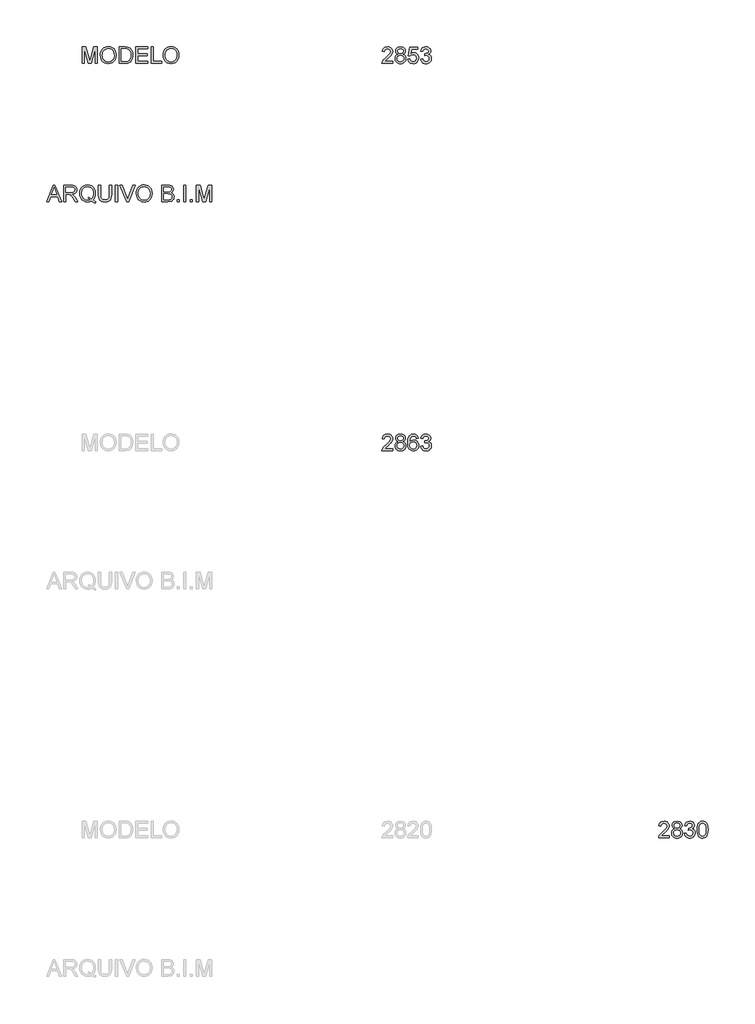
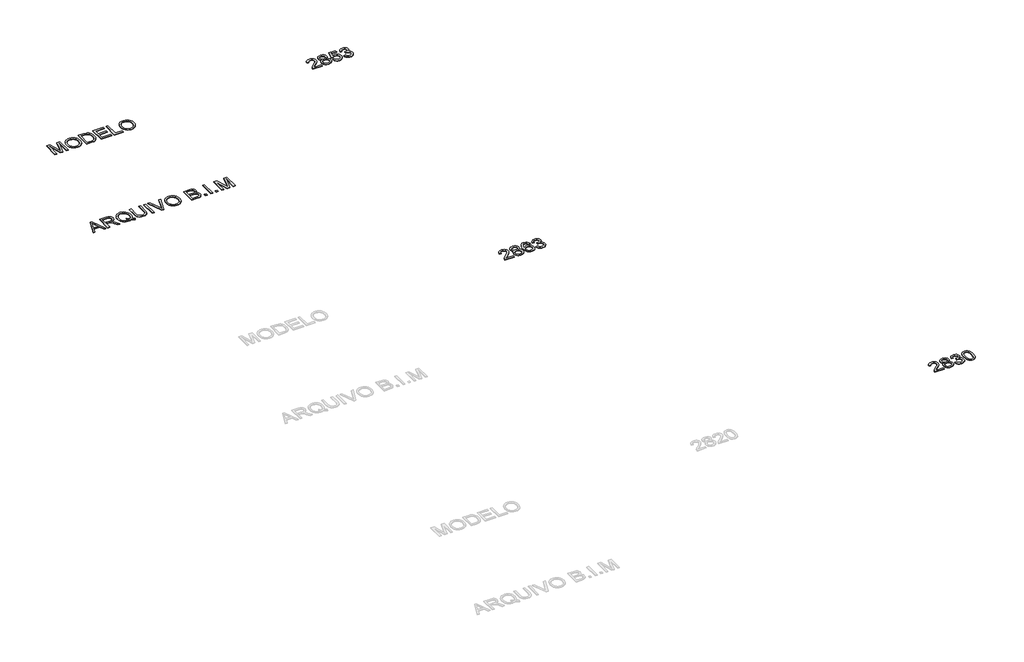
# One storey, part 2 of 4: 5 proxies.
"""IFC4 building model written with IfcOpenShell, lengths in millimetres."""

from ifc_helpers import new_model, si_unit, origin, origin_with_axes, place, context, project, spatial, polyline, outline, extrude, element, save

model = new_model("IFC4")

# Units and contexts
model_context = context("Model", 3, world=origin())
ifc_project = project(units=[si_unit("LENGTHUNIT", "METRE", prefix="MILLI")], contexts=[model_context])

# Site, building, storey
site = spatial("IfcSite", under=ifc_project)
building = spatial("IfcBuilding", under=site)
storey = spatial("IfcBuildingStorey", under=building, Name="Marelli - Linha UNIQUE - Planta Baixa", Elevation=0.0)

# Proxies
placement = place(None, origin())
element("IfcBuildingElementProxy", 1, Name="300mm Arial", ObjectType="300mm Arial", at=placement, inside=storey, context=model_context, shape_type="SweptSolid", body=[
    extrude(outline(polyline([(-1847.6579309, -1242.8952038), (-1847.6579309, -1280.5663201), (-2045.4312915, -1280.5663201), (-2041.3845896, -1254.5938512), (-2032.0955692, -1234.2959621), (-2018.5023295, -1214.6050783), (-1998.8390368, -1193.9944896), (-1971.3398577, -1170.9374855), (-1930.6888972, -1134.8298677), (-1906.298321, -1108.1768171), (-1894.1030328, -1086.5453558), (-1890.0379368, -1065.5025057), (-1893.8731066, -1046.6393564), (-1905.378616, -1030.9583863), (-1923.0645429, -1020.390976), (-1945.4409652, -1016.8685059), (-1968.9394277, -1020.3082026), (-1987.1955717, -1030.6272925), (-1998.9769926, -1047.0164354), (-2003.0512857, -1068.6662908), (-2040.722402, -1063.9574013), (-2031.5897315, -1027.5186897), (-2023.0433729, -1012.9827524), (-2011.8436654, -1000.9024273), (-1998.2481264, -991.4064733), (-1982.5142733, -984.623649), (-1944.6316249, -979.1973896), (-1924.4418011, -980.7057058), (-1906.4730649, -985.2306543), (-1890.7254163, -992.7722352), (-1877.1988551, -1003.3304485), (-1866.33484, -1016.1235449), (-1858.5748291, -1030.3697751), (-1853.9188226, -1046.0691393), (-1852.3668205, -1063.2216373), (-1854.0406835, -1081.238658), (-1859.0622728, -1098.942979), (-1867.9742141, -1116.9508027), (-1881.3191335, -1135.8783314), (-1902.5919099, -1158.4754829), (-1935.2874222, -1187.4921753), (-1978.6239212, -1223.7285518), (-1995.6200694, -1242.8952038), (-1847.6579309, -1242.8952038)])), origin_with_axes(), (0.0, 0.0, 1.0), 10.0),
    extrude(outline(polyline([(-1755.0988209, -1114.5779638), (-1775.2679513, -1104.64515), (-1789.4222111, -1091.180669), (-1797.7823294, -1074.4604323), (-1800.5690355, -1054.7603514), (-1799.0515223, -1039.3966796), (-1794.4989826, -1025.3113977), (-1786.9114165, -1012.5045058), (-1776.2888239, -1000.9760037), (-1763.1416411, -991.4478601), (-1747.9803043, -984.6420431), (-1711.6151691, -979.1973896), (-1675.0293047, -984.7708018), (-1659.7024211, -991.7375671), (-1646.3529032, -1001.4910385), (-1635.5371725, -1013.2448683), (-1627.8116506, -1026.2127086), (-1623.1763375, -1040.3945595), (-1621.6312331, -1055.790421), (-1624.381151, -1074.8559054), (-1632.6309048, -1091.2910335), (-1646.4724648, -1104.6727411), (-1665.9978017, -1114.5779638), (-1642.812039, -1126.5249316), (-1625.9354524, -1144.1188881), (-1615.6439536, -1166.5137045), (-1612.213454, -1192.8632524), (-1613.9149082, -1211.6528253), (-1619.0192709, -1228.8788997), (-1627.5265421, -1244.5414757), (-1639.4367217, -1258.6405532), (-1654.1244103, -1270.2932154), (-1670.9642086, -1278.6165455), (-1689.9561166, -1283.6105436), (-1711.1001343, -1285.2752096), (-1732.244152, -1283.6036458), (-1751.23606, -1278.5889543), (-1768.0758583, -1270.2311353), (-1782.763547, -1258.5301886), (-1794.6737266, -1244.3322428), (-1803.1809977, -1228.4834266), (-1808.2853604, -1210.9837399), (-1809.9868146, -1191.8331828), (-1806.4183593, -1164.4627624), (-1795.7129932, -1141.9483843), (-1778.4225394, -1125.0626007), (-1755.0988209, -1114.5779638)]), holes=[polyline([(-1762.8979192, -1055.8639974), (-1759.5593901, -1072.3083226), (-1749.5438028, -1085.4417098), (-1733.1454629, -1094.0501485), (-1710.6586759, -1096.9196281), (-1688.6961208, -1094.0685426), (-1672.5461012, -1085.5152862), (-1662.6132874, -1072.8233574), (-1659.3023494, -1057.5562546), (-1662.723652, -1041.7097376), (-1672.9875596, -1028.6039416), (-1689.3583084, -1019.8023648), (-1711.1001343, -1016.8685059), (-1732.979916, -1019.7379855), (-1749.3230736, -1028.3464242), (-1759.5042078, -1040.9647766), (-1762.8979192, -1055.8639974)]), polyline([(-1772.3156983, -1190.5088076), (-1766.0249162, -1218.8725095), (-1757.31531, -1231.0402065), (-1743.7680555, -1240.0993006), (-1727.5444595, -1245.7278951), (-1710.8058287, -1247.6040933), (-1685.1644537, -1243.6585589), (-1665.9242253, -1231.8219557), (-1653.8944841, -1213.8969055), (-1649.8845703, -1191.68603), (-1654.0232428, -1169.0980755), (-1666.4392601, -1150.7775522), (-1686.1209468, -1138.6374463), (-1712.0566275, -1134.5907444), (-1737.3393176, -1138.582264), (-1756.3864079, -1150.556823), (-1768.3333757, -1168.5278584), (-1772.3156983, -1190.5088076)])]), origin_with_axes(), (0.0, 0.0, 1.0), 10.0),
    extrude(outline(polyline([(-1579.2512273, -1200.5151979), (-1541.5801109, -1195.8063084), (-1534.6639294, -1218.421854), (-1522.5974, -1234.6178589), (-1505.4357049, -1244.3575347), (-1483.2340265, -1247.6040933), (-1456.2314881, -1243.0883418), (-1435.9979783, -1229.5410873), (-1423.3612318, -1208.5258284), (-1419.1489829, -1181.6060634), (-1423.0945173, -1156.2589939), (-1434.9311205, -1136.8716128), (-1454.750763, -1124.56596), (-1482.6454153, -1120.4640758), (-1500.9199534, -1122.1011506), (-1515.7180067, -1127.0123753), (-1536.8712214, -1144.0085235), (-1574.5423377, -1139.2996339), (-1541.5801109, -983.9062792), (-1395.6045353, -983.9062792), (-1395.6045353, -1021.5773955), (-1511.1194817, -1021.5773955), (-1527.2327131, -1104.5715736), (-1500.3221452, -1088.237613), (-1472.1239903, -1082.7929595), (-1453.778175, -1084.4806181), (-1436.9268804, -1089.5435941), (-1421.5701063, -1097.9818873), (-1407.7078529, -1109.7954979), (-1396.2322339, -1124.2624574), (-1388.0353632, -1140.6607973), (-1383.1172408, -1158.9905177), (-1381.4778666, -1179.2516186), (-1387.3823727, -1216.9227349), (-1394.7630052, -1233.716548), (-1405.0958907, -1249.1491977), (-1420.7492696, -1264.9543279), (-1439.0146107, -1276.2437066), (-1459.8919139, -1283.0173339), (-1483.3811793, -1285.2752096), (-1520.380911, -1279.4718711), (-1536.0595818, -1272.217698), (-1549.8574558, -1262.0618557), (-1561.3376733, -1249.5101819), (-1570.0633744, -1235.0685143), (-1579.2512273, -1200.5151979)])), origin_with_axes(), (0.0, 0.0, 1.0), 10.0),
    extrude(outline(polyline([(-1348.5156399, -1200.5151979), (-1310.8445236, -1195.8063084), (-1302.4108288, -1219.4795148), (-1290.0591908, -1235.4639875), (-1273.1826043, -1244.5690668), (-1251.174064, -1247.6040933), (-1225.3487479, -1243.4286327), (-1205.4095438, -1230.9022507), (-1192.6624326, -1212.2138454), (-1188.4133956, -1189.5523145), (-1192.6256444, -1168.0404148), (-1205.262391, -1150.5936112), (-1224.3922547, -1139.0329195), (-1248.0838552, -1135.1793556), (-1274.4977824, -1139.2996339), (-1270.3039277, -1101.6285176), (-1264.270663, -1102.069976), (-1241.7011026, -1099.3660433), (-1221.5227751, -1091.2542454), (-1207.2857419, -1077.5322469), (-1202.5400642, -1057.997713), (-1205.9797608, -1041.7281317), (-1216.2988508, -1028.5303652), (-1232.0442002, -1019.7839707), (-1251.7626751, -1016.8685059), (-1271.5179383, -1019.8115619), (-1287.6679579, -1028.6407298), (-1299.4585758, -1043.3560096), (-1306.135634, -1063.9574013), (-1343.8067503, -1059.2485118), (-1332.7151082, -1025.4217623), (-1312.9782391, -1000.1666633), (-1285.9757007, -984.4397081), (-1253.0870503, -979.1973896), (-1229.4046469, -981.7817606), (-1207.6536239, -989.5348737), (-1189.3147065, -1001.76695), (-1175.8686195, -1017.7882109), (-1167.6188658, -1036.24669), (-1164.8689479, -1055.790421), (-1167.48091, -1074.0005798), (-1175.3167965, -1090.5184814), (-1188.2662428, -1104.5899677), (-1206.2188841, -1115.4608806), (-1182.6376482, -1124.9890243), (-1165.1632535, -1141.2126203), (-1154.3475228, -1163.2487518), (-1150.7422793, -1190.2145021), (-1152.544901, -1209.3259717), (-1157.9527664, -1226.9291252), (-1166.9658753, -1243.0239625), (-1179.5842277, -1257.6104836), (-1194.9570966, -1269.7138012), (-1212.2337548, -1278.3590281), (-1231.4142023, -1283.5461642), (-1252.4984391, -1285.2752096), (-1271.5547265, -1283.7990831), (-1288.9187567, -1279.3707036), (-1304.5905297, -1271.9900711), (-1318.5700455, -1261.6571855), (-1330.2916855, -1248.9790523), (-1339.1898313, -1234.5626766), (-1345.2644827, -1218.4080585), (-1348.5156399, -1200.5151979)])), origin_with_axes(), (0.0, 0.0, 1.0), 10.0),
])
element("IfcBuildingElementProxy", 2, Name="300mm Arial", ObjectType="300mm Arial", at=placement, inside=storey, context=model_context, shape_type="SweptSolid", body=[
    extrude(outline(polyline([(-8109.419598, -3780.5663201), (-7989.1221856, -3479.1973896), (-7957.0428756, -3479.1973896), (-7836.7454632, -3780.5663201), (-7876.550295, -3780.5663201), (-7911.0576262, -3686.3885293), (-8035.1810114, -3686.3885293), (-8069.6147661, -3780.5663201), (-8109.419598, -3780.5663201)]), holes=[polyline([(-8021.3486483, -3648.717413), (-7924.8164128, -3648.717413), (-7951.9661041, -3574.6259792), (-7973.0825306, -3516.8685059), (-7991.8445123, -3568.1512561), (-8021.3486483, -3648.717413)])]), origin_with_axes(), (0.0, 0.0, 1.0), 10.0),
    extrude(outline(polyline([(-7796.4991729, -3780.5663201), (-7796.4991729, -3479.1973896), (-7666.6368286, -3479.1973896), (-7631.7340243, -3481.2299376), (-7606.3409696, -3487.3275817), (-7587.7813229, -3498.5847708), (-7573.3787428, -3516.0959537), (-7564.1357077, -3537.8101885), (-7561.054696, -3561.6765329), (-7566.1590587, -3591.3646099), (-7581.4721467, -3615.9759154), (-7593.0719259, -3626.0052983), (-7607.4538126, -3634.0205273), (-7644.5639089, -3644.0085235), (-7623.1531768, -3660.1217548), (-7592.6189712, -3698.8965171), (-7542.3662906, -3780.5663201), (-7586.144248, -3780.5663201), (-7625.3604687, -3718.0999573), (-7653.6873824, -3676.750021), (-7673.5897983, -3657.2154871), (-7691.5056515, -3650.0417882), (-7713.357842, -3648.717413), (-7758.8280566, -3648.717413), (-7758.8280566, -3780.5663201), (-7796.4991729, -3780.5663201)]), holes=[polyline([(-7758.8280566, -3611.0462967), (-7674.5095033, -3611.0462967), (-7650.293671, -3609.7127245), (-7631.5040981, -3605.7120078), (-7617.3590353, -3598.7774322), (-7607.0767336, -3588.6422832), (-7600.8135426, -3576.3826157), (-7598.7258123, -3563.0744845), (-7602.7081349, -3544.6987789), (-7614.6551027, -3529.8915286), (-7635.2105092, -3520.1242616), (-7665.0181478, -3516.8685059), (-7758.8280566, -3516.8685059), (-7758.8280566, -3611.0462967)])]), origin_with_axes(), (0.0, 0.0, 1.0), 10.0),
    extrude(outline(polyline([(-7268.7356626, -3744.4403081), (-7244.4002686, -3763.036743), (-7222.0146492, -3775.8574305), (-7232.1681923, -3803.4485802), (-7263.2358268, -3789.0460001), (-7294.1930967, -3768.205485), (-7329.0499157, -3781.0077785), (-7367.4016137, -3785.2752096), (-7405.9372527, -3780.3547879), (-7440.7572836, -3765.5935229), (-7469.9211287, -3741.9203165), (-7491.4882107, -3710.2640708), (-7504.814736, -3672.3630282), (-7509.2569111, -3629.9554312), (-7504.823933, -3587.511046), (-7491.5249989, -3549.0581805), (-7470.0406904, -3516.9512794), (-7441.0515892, -3493.5447874), (-7406.360317, -3479.2525719), (-7367.7694957, -3474.4885001), (-7328.8751718, -3479.3629365), (-7294.0091557, -3493.9862458), (-7265.0660397, -3517.3835407), (-7243.9404161, -3548.5799339), (-7231.0277581, -3585.9199564), (-7226.7235388, -3627.7481393), (-7229.3355009, -3662.5313819), (-7237.1713874, -3693.5990164), (-7250.2863806, -3720.9142546), (-7268.7356626, -3744.4403081)]), holes=[polyline([(-7357.0273415, -3694.3347804), (-7325.3527017, -3706.3093393), (-7299.784903, -3722.9559996), (-7284.3016695, -3705.4816049), (-7273.2422171, -3684.1076609), (-7266.6065456, -3658.8341679), (-7264.3946551, -3629.6611256), (-7267.521652, -3596.5057608), (-7276.9026429, -3567.8201623), (-7292.3077015, -3544.3308969), (-7313.5069014, -3526.7645316), (-7339.065503, -3515.8108452), (-7367.5487665, -3512.1596164), (-7389.033075, -3514.0059242), (-7408.6043972, -3519.5448474), (-7426.2627329, -3528.7763863), (-7442.0080823, -3541.7005406), (-7454.9483315, -3558.2897193), (-7464.1913666, -3578.5163313), (-7469.7371877, -3602.3803764), (-7471.5857948, -3629.8818548), (-7469.7578811, -3656.6659634), (-7464.2741401, -3680.1437324), (-7455.1345718, -3700.3151621), (-7442.3391761, -3717.1802523), (-7426.7018921, -3730.4906827), (-7409.0366585, -3739.9981331), (-7389.3434755, -3745.7026032), (-7367.6223429, -3747.6040933), (-7346.7082515, -3745.6727128), (-7327.081747, -3739.8785714), (-7346.3771577, -3729.853787), (-7366.7394261, -3723.1767288), (-7357.0273415, -3694.3347804)])]), origin_with_axes(), (0.0, 0.0, 1.0), 10.0),
    extrude(outline(polyline([(-6972.4435037, -3479.1973896), (-6934.7723874, -3479.1973896), (-6934.7723874, -3653.0584205), (-6937.3291673, -3693.7737604), (-6944.9995069, -3725.1265034), (-6959.3285106, -3749.3147446), (-6981.8612828, -3768.5365788), (-7012.6530058, -3781.0905519), (-7051.7588619, -3785.2752096), (-7090.0093923, -3781.6331779), (-7120.5895832, -3770.7070826), (-7143.5086315, -3752.8740029), (-7158.7757343, -3728.5110178), (-7167.3565818, -3695.8338995), (-7170.2168643, -3653.0584205), (-7170.2168643, -3479.1973896), (-7132.545748, -3479.1973896), (-7132.545748, -3651.7340454), (-7130.6879439, -3685.588386), (-7125.1145317, -3709.1604248), (-7115.0161709, -3725.4851883), (-7099.5835212, -3737.597703), (-7079.4603761, -3745.1024957), (-7055.290529, -3747.6040933), (-7016.9756192, -3742.6560805), (-7002.6328199, -3736.4710644), (-6991.499791, -3727.812042), (-6983.1626653, -3715.6351479), (-6977.2075755, -3698.8965171), (-6972.4435037, -3651.7340454), (-6972.4435037, -3479.1973896)])), origin_with_axes(), (0.0, 0.0, 1.0), 10.0),
    extrude(outline(polyline([(-6864.1390443, -3780.5663201), (-6864.1390443, -3479.1973896), (-6826.467928, -3479.1973896), (-6826.467928, -3780.5663201), (-6864.1390443, -3780.5663201)])), origin_with_axes(), (0.0, 0.0, 1.0), 10.0),
    extrude(outline(polyline([(-6662.0982526, -3780.5663201), (-6782.027783, -3479.1973896), (-6741.7079163, -3479.1973896), (-6661.436065, -3696.3213432), (-6645.1756808, -3745.2496485), (-6629.1360258, -3696.3213432), (-6548.6434453, -3479.1973896), (-6508.3235786, -3479.1973896), (-6623.1763375, -3780.5663201), (-6662.0982526, -3780.5663201)])), origin_with_axes(), (0.0, 0.0, 1.0), 10.0),
    extrude(outline(polyline([(-6487.4278813, -3633.8549804), (-6484.9170866, -3598.5061192), (-6477.3847028, -3567.213157), (-6464.8307297, -3539.9760937), (-6447.2551674, -3516.7949295), (-6425.711078, -3498.2858666), (-6401.2515239, -3485.0651074), (-6373.8765049, -3477.1326519), (-6343.5860211, -3474.4885001), (-6304.0571008, -3479.454907), (-6268.6116705, -3494.3541278), (-6239.1811109, -3518.1376988), (-6217.6968024, -3549.7571563), (-6204.5634152, -3587.68579), (-6200.1856194, -3630.3968896), (-6204.7933414, -3673.6782064), (-6218.6165074, -3712.140269), (-6240.8917622, -3743.8149087), (-6270.8557507, -3766.733957), (-6305.9976783, -3780.6398965), (-6343.8067503, -3785.2752096), (-6383.942676, -3780.1524528), (-6419.5904413, -3764.7841825), (-6448.9474246, -3740.5591531), (-6470.2110039, -3708.8661192), (-6483.1236619, -3672.3998164), (-6487.4278813, -3633.8549804)]), holes=[polyline([(-6449.7567649, -3634.2228624), (-6447.873669, -3659.1974513), (-6442.2243811, -3681.3669401), (-6432.8089013, -3700.7313286), (-6419.6272295, -3717.2906169), (-6403.6036694, -3730.5527628), (-6385.6625243, -3740.0257242), (-6365.8037944, -3745.709501), (-6344.0274795, -3747.6040933), (-6321.8786842, -3745.6911069), (-6301.7854294, -3739.9521478), (-6283.7477154, -3730.3872159), (-6267.7655419, -3716.9963113), (-6254.6804392, -3700.0875351), (-6245.3339373, -3679.9689885), (-6239.7260361, -3656.6406715), (-6237.8567357, -3630.102584), (-6241.0573091, -3596.7540812), (-6250.6590292, -3567.9305269), (-6266.4135756, -3544.358488), (-6288.0726281, -3526.7645316), (-6314.2014468, -3515.8108452), (-6343.3652919, -3512.1596164), (-6364.3851494, -3513.9185522), (-6383.8874937, -3519.1953595), (-6401.8723248, -3527.9900385), (-6418.3396426, -3540.302589), (-6432.0846336, -3556.7262208), (-6441.9024844, -3577.8541437), (-6447.7931948, -3603.6863575), (-6449.7567649, -3634.2228624)])]), origin_with_axes(), (0.0, 0.0, 1.0), 10.0),
    extrude(outline(polyline([(-6030.665596, -3780.5663201), (-6030.665596, -3479.1973896), (-5915.6656844, -3479.1973896), (-5884.0370298, -3481.4138786), (-5859.3429509, -3488.0633457), (-5840.4154222, -3499.3113377), (-5826.0864185, -3515.3234015), (-5817.0641126, -3534.1589597), (-5814.0566773, -3553.8774346), (-5816.585866, -3572.0232141), (-5824.1734321, -3589.0837416), (-5836.874558, -3604.0105535), (-5854.7444259, -3615.7551862), (-5833.3980732, -3626.9020107), (-5817.6251326, -3643.8613707), (-5807.8854568, -3665.5112261), (-5804.6388982, -3690.7295368), (-5806.8553872, -3711.7447958), (-5813.5048543, -3731.2333445), (-5823.4284711, -3747.8064284), (-5835.4674094, -3760.0752929), (-5850.2102804, -3768.9596431), (-5868.2456952, -3775.3791839), (-5916.5486011, -3780.5663201), (-6030.665596, -3780.5663201)]), holes=[polyline([(-5992.9944797, -3601.6285176), (-5924.2005466, -3601.6285176), (-5884.0278328, -3598.3911561), (-5869.9655435, -3592.8085468), (-5859.8579857, -3584.4484284), (-5853.7603416, -3573.4395597), (-5851.7277936, -3559.9106994), (-5853.6223859, -3546.7773121), (-5859.3061627, -3535.3361821), (-5868.5216067, -3526.4058467), (-5881.0112004, -3520.8048433), (-5929.424471, -3516.8685059), (-5992.9944797, -3516.8685059), (-5992.9944797, -3601.6285176)]), polyline([(-5992.9944797, -3742.8952038), (-5915.7392607, -3742.8952038), (-5887.7802291, -3741.4236758), (-5864.1254168, -3733.2199073), (-5848.4536438, -3716.4812765), (-5843.8459218, -3704.6538704), (-5842.3100145, -3691.0974188), (-5844.1126363, -3675.3520694), (-5849.5205016, -3661.814012), (-5858.9658718, -3651.2282076), (-5872.8810083, -3644.3396173), (-5892.5902862, -3640.5596298), (-5919.4180807, -3639.2996339), (-5992.9944797, -3639.2996339), (-5992.9944797, -3742.8952038)])]), origin_with_axes(), (0.0, 0.0, 1.0), 10.0),
    extrude(outline(polyline([(-5748.1322237, -3780.5663201), (-5748.1322237, -3742.8952038), (-5710.4611074, -3742.8952038), (-5710.4611074, -3780.5663201), (-5748.1322237, -3780.5663201)])), origin_with_axes(), (0.0, 0.0, 1.0), 10.0),
    extrude(outline(polyline([(-5630.4099853, -3780.5663201), (-5630.4099853, -3479.1973896), (-5592.738869, -3479.1973896), (-5592.738869, -3780.5663201), (-5630.4099853, -3780.5663201)])), origin_with_axes(), (0.0, 0.0, 1.0), 10.0),
    extrude(outline(polyline([(-5512.6877468, -3780.5663201), (-5512.6877468, -3742.8952038), (-5475.0166305, -3742.8952038), (-5475.0166305, -3780.5663201), (-5512.6877468, -3780.5663201)])), origin_with_axes(), (0.0, 0.0, 1.0), 10.0),
    extrude(outline(polyline([(-5399.6743979, -3780.5663201), (-5399.6743979, -3479.1973896), (-5334.8535904, -3479.1973896), (-5273.196568, -3691.6124536), (-5260.7621565, -3735.9790223), (-5247.2976755, -3687.9336337), (-5186.6707227, -3479.1973896), (-5121.8499152, -3479.1973896), (-5121.8499152, -3780.5663201), (-5159.5210315, -3780.5663201), (-5159.5210315, -3516.8685059), (-5235.2311461, -3780.5663201), (-5286.293167, -3780.5663201), (-5362.0032816, -3516.8685059), (-5362.0032816, -3780.5663201), (-5399.6743979, -3780.5663201)])), origin_with_axes(), (0.0, 0.0, 1.0), 10.0),
])
element("IfcBuildingElementProxy", 3, Name="300mm Arial", ObjectType="300mm Arial", at=placement, inside=storey, context=model_context, shape_type="SweptSolid", body=[
    extrude(outline(polyline([(-7466.8769052, -1280.5663201), (-7466.8769052, -979.1973896), (-7402.0560977, -979.1973896), (-7340.3990753, -1191.6124536), (-7327.9646638, -1235.9790223), (-7314.5001828, -1187.9336337), (-7253.87323, -979.1973896), (-7189.0524225, -979.1973896), (-7189.0524225, -1280.5663201), (-7226.7235388, -1280.5663201), (-7226.7235388, -1016.8685059), (-7302.4336534, -1280.5663201), (-7353.4956743, -1280.5663201), (-7429.2057889, -1016.8685059), (-7429.2057889, -1280.5663201), (-7466.8769052, -1280.5663201)])), origin_with_axes(), (0.0, 0.0, 1.0), 10.0),
    extrude(outline(polyline([(-7137.2546375, -1133.8549804), (-7134.7438429, -1098.5061192), (-7127.2114591, -1067.213157), (-7114.657486, -1039.9760937), (-7097.0819237, -1016.7949295), (-7075.5378343, -998.2858666), (-7051.0782802, -985.0651074), (-7023.7032612, -977.1326519), (-6993.4127774, -974.4885001), (-6953.883857, -979.454907), (-6918.4384268, -994.3541278), (-6889.0078672, -1018.1376988), (-6867.5235587, -1049.7571563), (-6854.3901714, -1087.68579), (-6850.0123757, -1130.3968896), (-6854.6200977, -1173.6782064), (-6868.4432637, -1212.140269), (-6890.7185185, -1243.8149087), (-6920.682507, -1266.733957), (-6955.8244346, -1280.6398965), (-6993.6335066, -1285.2752096), (-7033.7694323, -1280.1524528), (-7069.4171976, -1264.7841825), (-7098.7741808, -1240.5591531), (-7120.0377602, -1208.8661192), (-7132.9504182, -1172.3998164), (-7137.2546375, -1133.8549804)]), holes=[polyline([(-7099.5835212, -1134.2228624), (-7097.7004253, -1159.1974513), (-7092.0511374, -1181.3669401), (-7082.6356576, -1200.7313286), (-7069.4539858, -1217.2906169), (-7053.4304257, -1230.5527628), (-7035.4892806, -1240.0257242), (-7015.6305507, -1245.709501), (-6993.8542358, -1247.6040933), (-6971.7054404, -1245.6911069), (-6951.6121857, -1239.9521478), (-6933.5744716, -1230.3872159), (-6917.5922982, -1216.9963113), (-6904.5071955, -1200.0875351), (-6895.1606936, -1179.9689885), (-6889.5527924, -1156.6406715), (-6887.683492, -1130.102584), (-6890.8840654, -1096.7540812), (-6900.4857854, -1067.9305269), (-6916.2403319, -1044.358488), (-6937.8993843, -1026.7645316), (-6964.0282031, -1015.8108452), (-6993.1920482, -1012.1596164), (-7014.2119057, -1013.9185522), (-7033.71425, -1019.1953595), (-7051.699081, -1027.9900385), (-7068.1663988, -1040.302589), (-7081.9113899, -1056.7262208), (-7091.7292406, -1077.8541437), (-7097.6199511, -1103.6863575), (-7099.5835212, -1134.2228624)])]), origin_with_axes(), (0.0, 0.0, 1.0), 10.0),
    extrude(outline(polyline([(-6798.2145908, -1280.5663201), (-6798.2145908, -979.1973896), (-6694.2511389, -979.1973896), (-6640.4667912, -983.5383972), (-6616.444097, -991.9077126), (-6596.173799, -1005.0962821), (-6575.333284, -1028.0521186), (-6560.4892455, -1056.5997614), (-6551.6048953, -1090.1873876), (-6548.6434453, -1128.2631741), (-6550.6484021, -1160.6091985), (-6556.6632727, -1189.0740679), (-6565.8235344, -1213.3082943), (-6577.2646645, -1232.9623899), (-6590.4348399, -1248.477813), (-6604.7822377, -1260.2960221), (-6621.254154, -1269.0608107), (-6640.797885, -1275.4159721), (-6689.2479438, -1280.5663201), (-6798.2145908, -1280.5663201)]), holes=[polyline([(-6760.5434745, -1242.8952038), (-6693.8832569, -1242.8952038), (-6666.3105014, -1241.5340404), (-6645.39641, -1237.4505502), (-6629.6142724, -1230.8838566), (-6617.4373783, -1222.0730828), (-6604.3499764, -1205.7667134), (-6594.5183301, -1184.6594839), (-6588.3655037, -1158.6594239), (-6586.3145616, -1127.6745629), (-6590.3336724, -1086.6189322), (-6602.3910047, -1056.3054558), (-6620.2056904, -1035.4833349), (-6641.4968608, -1022.9017706), (-6663.1651104, -1018.3768221), (-6694.9133265, -1016.8685059), (-6760.5434745, -1016.8685059), (-6760.5434745, -1242.8952038)])]), origin_with_axes(), (0.0, 0.0, 1.0), 10.0),
    extrude(outline(polyline([(-6496.8456603, -1280.5663201), (-6496.8456603, -979.1973896), (-6280.2367416, -979.1973896), (-6280.2367416, -1016.8685059), (-6459.174544, -1016.8685059), (-6459.174544, -1106.3374072), (-6289.6545206, -1106.3374072), (-6289.6545206, -1144.0085235), (-6459.174544, -1144.0085235), (-6459.174544, -1242.8952038), (-6275.527852, -1242.8952038), (-6275.527852, -1280.5663201), (-6496.8456603, -1280.5663201)])), origin_with_axes(), (0.0, 0.0, 1.0), 10.0),
    extrude(outline(polyline([(-6219.0211776, -1280.5663201), (-6219.0211776, -979.1973896), (-6181.3500613, -979.1973896), (-6181.3500613, -1242.8952038), (-6030.665596, -1242.8952038), (-6030.665596, -1280.5663201), (-6219.0211776, -1280.5663201)])), origin_with_axes(), (0.0, 0.0, 1.0), 10.0),
    extrude(outline(polyline([(-6002.4122588, -1133.8549804), (-5999.9014642, -1098.5061192), (-5992.3690803, -1067.213157), (-5979.8151073, -1039.9760937), (-5962.2395449, -1016.7949295), (-5940.6954556, -998.2858666), (-5916.2359014, -985.0651074), (-5888.8608825, -977.1326519), (-5858.5703987, -974.4885001), (-5819.0414783, -979.454907), (-5783.5960481, -994.3541278), (-5754.1654885, -1018.1376988), (-5732.6811799, -1049.7571563), (-5719.5477927, -1087.68579), (-5715.169997, -1130.3968896), (-5719.777719, -1173.6782064), (-5733.6008849, -1212.140269), (-5755.8761397, -1243.8149087), (-5785.8401283, -1266.733957), (-5820.9820558, -1280.6398965), (-5858.7911279, -1285.2752096), (-5898.9270536, -1280.1524528), (-5934.5748189, -1264.7841825), (-5963.9318021, -1240.5591531), (-5985.1953814, -1208.8661192), (-5998.1080395, -1172.3998164), (-6002.4122588, -1133.8549804)]), holes=[polyline([(-5964.7411425, -1134.2228624), (-5962.8580465, -1159.1974513), (-5957.2087587, -1181.3669401), (-5947.7932788, -1200.7313286), (-5934.6116071, -1217.2906169), (-5918.5880469, -1230.5527628), (-5900.6469019, -1240.0257242), (-5880.7881719, -1245.709501), (-5859.0118571, -1247.6040933), (-5836.8630617, -1245.6911069), (-5816.769807, -1239.9521478), (-5798.7320929, -1230.3872159), (-5782.7499195, -1216.9963113), (-5769.6648168, -1200.0875351), (-5760.3183148, -1179.9689885), (-5754.7104137, -1156.6406715), (-5752.8411133, -1130.102584), (-5756.0416866, -1096.7540812), (-5765.6434067, -1067.9305269), (-5781.3979532, -1044.358488), (-5803.0570056, -1026.7645316), (-5829.1858243, -1015.8108452), (-5858.3496695, -1012.1596164), (-5879.369527, -1013.9185522), (-5898.8718713, -1019.1953595), (-5916.8567023, -1027.9900385), (-5933.3240201, -1040.302589), (-5947.0690112, -1056.7262208), (-5956.8868619, -1077.8541437), (-5962.7775724, -1103.6863575), (-5964.7411425, -1134.2228624)])]), origin_with_axes(), (0.0, 0.0, 1.0), 10.0),
])
element("IfcBuildingElementProxy", 4, Name="300mm Arial", ObjectType="300mm Arial", at=placement, inside=storey, context=model_context, shape_type="SweptSolid", body=[
    extrude(outline(polyline([(-1847.6579309, -8242.8952038), (-1847.6579309, -8280.5663201), (-2045.4312915, -8280.5663201), (-2041.3845896, -8254.5938512), (-2032.0955692, -8234.2959621), (-2018.5023295, -8214.6050783), (-1998.8390368, -8193.9944896), (-1971.3398577, -8170.9374855), (-1930.6888972, -8134.8298677), (-1906.298321, -8108.1768171), (-1894.1030328, -8086.5453558), (-1890.0379368, -8065.5025057), (-1893.8731066, -8046.6393564), (-1905.378616, -8030.9583863), (-1923.0645429, -8020.390976), (-1945.4409652, -8016.8685059), (-1968.9394277, -8020.3082026), (-1987.1955717, -8030.6272925), (-1998.9769926, -8047.0164354), (-2003.0512857, -8068.6662908), (-2040.722402, -8063.9574013), (-2031.5897315, -8027.5186897), (-2023.0433729, -8012.9827524), (-2011.8436654, -8000.9024273), (-1998.2481264, -7991.4064733), (-1982.5142733, -7984.623649), (-1944.6316249, -7979.1973896), (-1924.4418011, -7980.7057058), (-1906.4730649, -7985.2306543), (-1890.7254163, -7992.7722352), (-1877.1988551, -8003.3304485), (-1866.33484, -8016.1235449), (-1858.5748291, -8030.3697751), (-1853.9188226, -8046.0691393), (-1852.3668205, -8063.2216373), (-1854.0406835, -8081.238658), (-1859.0622728, -8098.942979), (-1867.9742141, -8116.9508027), (-1881.3191335, -8135.8783314), (-1902.5919099, -8158.4754829), (-1935.2874222, -8187.4921753), (-1978.6239212, -8223.7285518), (-1995.6200694, -8242.8952038), (-1847.6579309, -8242.8952038)])), origin_with_axes(), (0.0, 0.0, 1.0), 10.0),
    extrude(outline(polyline([(-1755.0988209, -8114.5779638), (-1775.2679513, -8104.64515), (-1789.4222111, -8091.180669), (-1797.7823294, -8074.4604323), (-1800.5690355, -8054.7603514), (-1799.0515223, -8039.3966796), (-1794.4989826, -8025.3113977), (-1786.9114165, -8012.5045058), (-1776.2888239, -8000.9760037), (-1763.1416411, -7991.4478601), (-1747.9803043, -7984.6420431), (-1711.6151691, -7979.1973896), (-1675.0293047, -7984.7708018), (-1659.7024211, -7991.7375671), (-1646.3529032, -8001.4910385), (-1635.5371725, -8013.2448683), (-1627.8116506, -8026.2127086), (-1623.1763375, -8040.3945595), (-1621.6312331, -8055.790421), (-1624.381151, -8074.8559054), (-1632.6309048, -8091.2910335), (-1646.4724648, -8104.6727411), (-1665.9978017, -8114.5779638), (-1642.812039, -8126.5249316), (-1625.9354524, -8144.1188881), (-1615.6439536, -8166.5137045), (-1612.213454, -8192.8632524), (-1613.9149082, -8211.6528253), (-1619.0192709, -8228.8788997), (-1627.5265421, -8244.5414757), (-1639.4367217, -8258.6405532), (-1654.1244103, -8270.2932154), (-1670.9642086, -8278.6165455), (-1689.9561166, -8283.6105436), (-1711.1001343, -8285.2752096), (-1732.244152, -8283.6036458), (-1751.23606, -8278.5889543), (-1768.0758583, -8270.2311353), (-1782.763547, -8258.5301886), (-1794.6737266, -8244.3322428), (-1803.1809977, -8228.4834266), (-1808.2853604, -8210.9837399), (-1809.9868146, -8191.8331828), (-1806.4183593, -8164.4627624), (-1795.7129932, -8141.9483843), (-1778.4225394, -8125.0626007), (-1755.0988209, -8114.5779638)]), holes=[polyline([(-1762.8979192, -8055.8639974), (-1759.5593901, -8072.3083226), (-1749.5438028, -8085.4417098), (-1733.1454629, -8094.0501485), (-1710.6586759, -8096.9196281), (-1688.6961208, -8094.0685426), (-1672.5461012, -8085.5152862), (-1662.6132874, -8072.8233574), (-1659.3023494, -8057.5562546), (-1662.723652, -8041.7097376), (-1672.9875596, -8028.6039416), (-1689.3583084, -8019.8023648), (-1711.1001343, -8016.8685059), (-1732.979916, -8019.7379855), (-1749.3230736, -8028.3464242), (-1759.5042078, -8040.9647766), (-1762.8979192, -8055.8639974)]), polyline([(-1772.3156983, -8190.5088076), (-1766.0249162, -8218.8725095), (-1757.31531, -8231.0402065), (-1743.7680555, -8240.0993006), (-1727.5444595, -8245.7278951), (-1710.8058287, -8247.6040933), (-1685.1644537, -8243.6585589), (-1665.9242253, -8231.8219557), (-1653.8944841, -8213.8969055), (-1649.8845703, -8191.68603), (-1654.0232428, -8169.0980755), (-1666.4392601, -8150.7775522), (-1686.1209468, -8138.6374463), (-1712.0566275, -8134.5907444), (-1737.3393176, -8138.582264), (-1756.3864079, -8150.556823), (-1768.3333757, -8168.5278584), (-1772.3156983, -8190.5088076)])]), origin_with_axes(), (0.0, 0.0, 1.0), 10.0),
    extrude(outline(polyline([(-1386.1867562, -8059.2485118), (-1423.8578725, -8063.9574013), (-1429.9279254, -8045.2873901), (-1438.1316939, -8032.5402789), (-1455.2198126, -8020.7864492), (-1475.8763866, -8016.8685059), (-1493.3875696, -8019.1493743), (-1509.868683, -8025.9919794), (-1524.0229427, -8040.4037566), (-1535.5836344, -8060.2417932), (-1543.3919298, -8088.3019923), (-1546.2890005, -8127.3802573), (-1531.1782475, -8109.7495127), (-1513.0692563, -8097.3242983), (-1492.9737023, -8089.9574613), (-1471.9032611, -8087.501849), (-1453.8034669, -8089.1803106), (-1437.1016243, -8094.2156954), (-1421.7977333, -8102.6080034), (-1407.8917939, -8114.3572346), (-1396.3357007, -8128.7644133), (-1388.0813485, -8145.1305635), (-1383.1287371, -8163.4556854), (-1381.4778666, -8183.7397789), (-1384.5864695, -8210.7147262), (-1393.9122781, -8235.7215049), (-1408.6827402, -8256.9299019), (-1428.1253036, -8272.5097044), (-1451.3570516, -8282.0838333), (-1477.4950674, -8285.2752096), (-1499.9519639, -8283.1598881), (-1520.2337582, -8276.8139237), (-1538.3404501, -8266.2373164), (-1554.2720398, -8251.4300661), (-1567.2605735, -8231.7667734), (-1576.5380975, -8206.622039), (-1582.104612, -8175.9958629), (-1583.9601168, -8139.8882451), (-1581.8999776, -8099.4074301), (-1575.7195601, -8064.8587122), (-1565.4188642, -8036.2420915), (-1550.99789, -8013.557568), (-1535.3675038, -7998.5249899), (-1517.244717, -7987.7874342), (-1496.6295297, -7981.3449008), (-1473.5219418, -7979.1973896), (-1440.4677446, -7984.5132844), (-1413.998635, -8000.4609689), (-1395.4573825, -8025.7896443), (-1386.1867562, -8059.2485118)]), holes=[polyline([(-1546.2890005, -8183.1511677), (-1544.1092997, -8199.8438133), (-1537.5701972, -8215.7823007), (-1527.4166541, -8229.485905), (-1514.3936315, -8239.4739012), (-1498.6758733, -8245.5715453), (-1480.4381233, -8247.6040933), (-1455.5784975, -8243.3918445), (-1436.0347665, -8230.7550979), (-1423.3704288, -8210.8894702), (-1419.1489829, -8184.9905777), (-1423.3152465, -8160.1309519), (-1435.8140373, -8141.1758321), (-1455.6888621, -8129.173682), (-1481.9832277, -8125.1729653), (-1506.8060653, -8129.173682), (-1527.5638069, -8141.1758321), (-1541.6077021, -8159.6710994), (-1546.2890005, -8183.1511677)])]), origin_with_axes(), (0.0, 0.0, 1.0), 10.0),
    extrude(outline(polyline([(-1348.5156399, -8200.5151979), (-1310.8445236, -8195.8063084), (-1302.4108288, -8219.4795148), (-1290.0591908, -8235.4639875), (-1273.1826043, -8244.5690668), (-1251.174064, -8247.6040933), (-1225.3487479, -8243.4286327), (-1205.4095438, -8230.9022507), (-1192.6624326, -8212.2138454), (-1188.4133956, -8189.5523145), (-1192.6256444, -8168.0404148), (-1205.262391, -8150.5936112), (-1224.3922547, -8139.0329195), (-1248.0838552, -8135.1793556), (-1274.4977824, -8139.2996339), (-1270.3039277, -8101.6285176), (-1264.270663, -8102.069976), (-1241.7011026, -8099.3660433), (-1221.5227751, -8091.2542454), (-1207.2857419, -8077.5322469), (-1202.5400642, -8057.997713), (-1205.9797608, -8041.7281317), (-1216.2988508, -8028.5303652), (-1232.0442002, -8019.7839707), (-1251.7626751, -8016.8685059), (-1271.5179383, -8019.8115619), (-1287.6679579, -8028.6407298), (-1299.4585758, -8043.3560096), (-1306.135634, -8063.9574013), (-1343.8067503, -8059.2485118), (-1332.7151082, -8025.4217623), (-1312.9782391, -8000.1666633), (-1285.9757007, -7984.4397081), (-1253.0870503, -7979.1973896), (-1229.4046469, -7981.7817606), (-1207.6536239, -7989.5348737), (-1189.3147065, -8001.76695), (-1175.8686195, -8017.7882109), (-1167.6188658, -8036.24669), (-1164.8689479, -8055.790421), (-1167.48091, -8074.0005798), (-1175.3167965, -8090.5184814), (-1188.2662428, -8104.5899677), (-1206.2188841, -8115.4608806), (-1182.6376482, -8124.9890243), (-1165.1632535, -8141.2126203), (-1154.3475228, -8163.2487518), (-1150.7422793, -8190.2145021), (-1152.544901, -8209.3259717), (-1157.9527664, -8226.9291252), (-1166.9658753, -8243.0239625), (-1179.5842277, -8257.6104836), (-1194.9570966, -8269.7138012), (-1212.2337548, -8278.3590281), (-1231.4142023, -8283.5461642), (-1252.4984391, -8285.2752096), (-1271.5547265, -8283.7990831), (-1288.9187567, -8279.3707036), (-1304.5905297, -8271.9900711), (-1318.5700455, -8261.6571855), (-1330.2916855, -8248.9790523), (-1339.1898313, -8234.5626766), (-1345.2644827, -8218.4080585), (-1348.5156399, -8200.5151979)])), origin_with_axes(), (0.0, 0.0, 1.0), 10.0),
])
element("IfcBuildingElementProxy", 5, Name="300mm Arial", ObjectType="300mm Arial", at=placement, inside=storey, context=model_context, shape_type="SweptSolid", body=[
    extrude(outline(polyline([(3152.3420691, -15242.8952038), (3152.3420691, -15280.5663201), (2954.5687085, -15280.5663201), (2958.6154104, -15254.5938512), (2967.9044308, -15234.2959621), (2981.4976705, -15214.6050783), (3001.1609632, -15193.9944896), (3028.6601423, -15170.9374855), (3069.3111028, -15134.8298677), (3093.701679, -15108.1768171), (3105.8969672, -15086.5453558), (3109.9620632, -15065.5025057), (3106.1268934, -15046.6393564), (3094.621384, -15030.9583863), (3076.9354571, -15020.390976), (3054.5590348, -15016.8685059), (3031.0605723, -15020.3082026), (3012.8044283, -15030.6272925), (3001.0230074, -15047.0164354), (2996.9487143, -15068.6662908), (2959.277598, -15063.9574013), (2968.4102685, -15027.5186897), (2976.9566271, -15012.9827524), (2988.1563346, -15000.9024273), (3001.7518736, -14991.4064733), (3017.4857267, -14984.623649), (3055.3683751, -14979.1973896), (3075.5581989, -14980.7057058), (3093.5269351, -14985.2306543), (3109.2745837, -14992.7722352), (3122.8011449, -15003.3304485), (3133.66516, -15016.1235449), (3141.4251709, -15030.3697751), (3146.0811774, -15046.0691393), (3147.6331795, -15063.2216373), (3145.9593165, -15081.238658), (3140.9377272, -15098.942979), (3132.0257859, -15116.9508027), (3118.6808665, -15135.8783314), (3097.4080901, -15158.4754829), (3064.7125778, -15187.4921753), (3021.3760788, -15223.7285518), (3004.3799306, -15242.8952038), (3152.3420691, -15242.8952038)])), origin_with_axes(), (0.0, 0.0, 1.0), 10.0),
    extrude(outline(polyline([(3244.9011791, -15114.5779638), (3224.7320487, -15104.64515), (3210.5777889, -15091.180669), (3202.2176706, -15074.4604323), (3199.4309645, -15054.7603514), (3200.9484777, -15039.3966796), (3205.5010174, -15025.3113977), (3213.0885835, -15012.5045058), (3223.7111761, -15000.9760037), (3236.8583589, -14991.4478601), (3252.0196957, -14984.6420431), (3288.3848309, -14979.1973896), (3324.9706953, -14984.7708018), (3340.2975789, -14991.7375671), (3353.6470968, -15001.4910385), (3364.4628275, -15013.2448683), (3372.1883494, -15026.2127086), (3376.8236625, -15040.3945595), (3378.3687669, -15055.790421), (3375.618849, -15074.8559054), (3367.3690952, -15091.2910335), (3353.5275352, -15104.6727411), (3334.0021983, -15114.5779638), (3357.187961, -15126.5249316), (3374.0645476, -15144.1188881), (3384.3560464, -15166.5137045), (3387.786546, -15192.8632524), (3386.0850918, -15211.6528253), (3380.9807291, -15228.8788997), (3372.4734579, -15244.5414757), (3360.5632783, -15258.6405532), (3345.8755897, -15270.2932154), (3329.0357914, -15278.6165455), (3310.0438834, -15283.6105436), (3288.8998657, -15285.2752096), (3267.755848, -15283.6036458), (3248.76394, -15278.5889543), (3231.9241417, -15270.2311353), (3217.236453, -15258.5301886), (3205.3262734, -15244.3322428), (3196.8190023, -15228.4834266), (3191.7146396, -15210.9837399), (3190.0131854, -15191.8331828), (3193.5816407, -15164.4627624), (3204.2870068, -15141.9483843), (3221.5774606, -15125.0626007), (3244.9011791, -15114.5779638)]), holes=[polyline([(3237.1020808, -15055.8639974), (3240.4406099, -15072.3083226), (3250.4561972, -15085.4417098), (3266.8545371, -15094.0501485), (3289.3413241, -15096.9196281), (3311.3038792, -15094.0685426), (3327.4538988, -15085.5152862), (3337.3867126, -15072.8233574), (3340.6976506, -15057.5562546), (3337.276348, -15041.7097376), (3327.0124404, -15028.6039416), (3310.6416916, -15019.8023648), (3288.8998657, -15016.8685059), (3267.020084, -15019.7379855), (3250.6769264, -15028.3464242), (3240.4957922, -15040.9647766), (3237.1020808, -15055.8639974)]), polyline([(3227.6843017, -15190.5088076), (3233.9750838, -15218.8725095), (3242.68469, -15231.0402065), (3256.2319445, -15240.0993006), (3272.4555405, -15245.7278951), (3289.1941713, -15247.6040933), (3314.8355463, -15243.6585589), (3334.0757747, -15231.8219557), (3346.1055159, -15213.8969055), (3350.1154297, -15191.68603), (3345.9767572, -15169.0980755), (3333.5607399, -15150.7775522), (3313.8790532, -15138.6374463), (3287.9433725, -15134.5907444), (3262.6606824, -15138.582264), (3243.6135921, -15150.556823), (3231.6666243, -15168.5278584), (3227.6843017, -15190.5088076)])]), origin_with_axes(), (0.0, 0.0, 1.0), 10.0),
    extrude(outline(polyline([(3420.7487727, -15200.5151979), (3458.4198891, -15195.8063084), (3466.8535838, -15219.4795148), (3479.2052218, -15235.4639875), (3496.0818083, -15244.5690668), (3518.0903487, -15247.6040933), (3543.9156647, -15243.4286327), (3563.8548689, -15230.9022507), (3576.60198, -15212.2138454), (3580.8510171, -15189.5523145), (3576.6387682, -15168.0404148), (3564.0020217, -15150.5936112), (3544.8721579, -15139.0329195), (3521.1805574, -15135.1793556), (3494.7666302, -15139.2996339), (3498.9604849, -15101.6285176), (3504.9937496, -15102.069976), (3527.56331, -15099.3660433), (3547.7416375, -15091.2542454), (3561.9786707, -15077.5322469), (3566.7243484, -15057.997713), (3563.2846518, -15041.7281317), (3552.9655618, -15028.5303652), (3537.2202124, -15019.7839707), (3517.5017375, -15016.8685059), (3497.7464743, -15019.8115619), (3481.5964548, -15028.6407298), (3469.8058368, -15043.3560096), (3463.1287786, -15063.9574013), (3425.4576623, -15059.2485118), (3436.5493044, -15025.4217623), (3456.2861735, -15000.1666633), (3483.2887119, -14984.4397081), (3516.1773623, -14979.1973896), (3539.8597657, -14981.7817606), (3561.6107887, -14989.5348737), (3579.9497062, -15001.76695), (3593.3957931, -15017.7882109), (3601.6455468, -15036.24669), (3604.3954647, -15055.790421), (3601.7835026, -15074.0005798), (3593.9476161, -15090.5184814), (3580.9981698, -15104.5899677), (3563.0455285, -15115.4608806), (3586.6267644, -15124.9890243), (3604.1011591, -15141.2126203), (3614.9168898, -15163.2487518), (3618.5221334, -15190.2145021), (3616.7195116, -15209.3259717), (3611.3116463, -15226.9291252), (3602.2985374, -15243.0239625), (3589.6801849, -15257.6104836), (3574.3073161, -15269.7138012), (3557.0306579, -15278.3590281), (3537.8502103, -15283.5461642), (3516.7659735, -15285.2752096), (3497.7096861, -15283.7990831), (3480.345656, -15279.3707036), (3464.673883, -15271.9900711), (3450.6943672, -15261.6571855), (3438.9727271, -15248.9790523), (3430.0745813, -15234.5626766), (3423.9999299, -15218.4080585), (3420.7487727, -15200.5151979)])), origin_with_axes(), (0.0, 0.0, 1.0), 10.0),
    extrude(outline(polyline([(3651.4843601, -15132.309876), (3654.2526721, -15084.0713494), (3662.5576082, -15045.6000897), (3676.3163948, -15016.3074859), (3695.4462585, -14995.6049266), (3720.0851552, -14983.2992739), (3750.3710404, -14979.1973896), (3773.5843943, -14981.6254108), (3794.3697271, -14988.9094743), (3811.7521513, -15000.7644716), (3824.7567799, -15016.9052941), (3834.5792291, -15037.1939862), (3842.4151156, -15061.4925919), (3847.5470695, -15092.3486943), (3849.2577207, -15132.309876), (3846.5169999, -15180.2724911), (3838.2948373, -15218.6517803), (3824.6188241, -15247.9719753), (3805.5165515, -15268.757308), (3780.8224726, -15281.1457342), (3750.3710404, -15285.2752096), (3729.6224959, -15283.4817849), (3711.2283961, -15278.1015107), (3695.1887412, -15269.1343871), (3681.5035309, -15256.580414), (3668.3701437, -15233.8866934), (3658.9891528, -15205.6103636), (3653.3605583, -15171.7514244), (3651.4843601, -15132.309876)]), holes=[polyline([(3689.1554764, -15132.2362996), (3693.5700604, -15191.492892), (3699.0882903, -15211.7608907), (3706.8138122, -15225.788691), (3726.5322871, -15242.1502427), (3750.3710404, -15247.6040933), (3774.2097937, -15242.1318486), (3793.9282687, -15225.7151146), (3801.6537906, -15211.6643216), (3807.1720205, -15191.4009215), (3811.5866044, -15132.2362996), (3807.3191733, -15074.3132795), (3801.9848844, -15054.1119594), (3794.5168798, -15039.750766), (3774.8351931, -15022.589071), (3749.929582, -15016.8685059), (3726.3483461, -15021.9084893), (3707.4024234, -15037.0284393), (3699.4193841, -15052.6634241), (3693.7172132, -15073.7430624), (3689.1554764, -15132.2362996)])]), origin_with_axes(), (0.0, 0.0, 1.0), 10.0),
])

save(model, "model.ifc")
